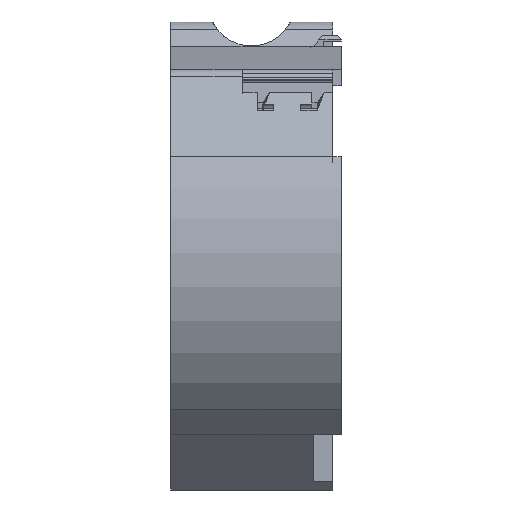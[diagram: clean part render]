
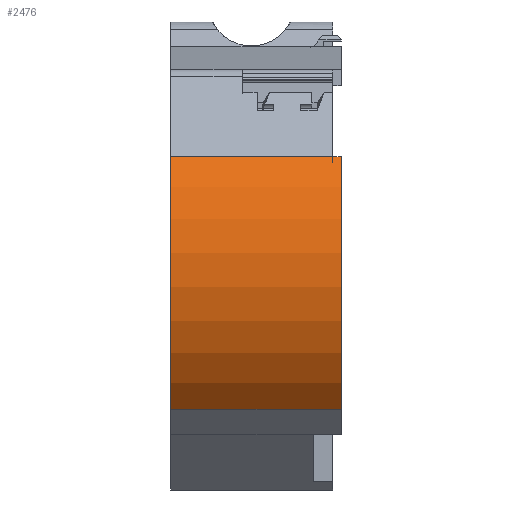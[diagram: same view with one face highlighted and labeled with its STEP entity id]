
A CAD part, left-side view. The second image highlights one B-rep face of the part: STEP entity #2476.
In plain terms, the highlighted cylindrical face has radius 36 mm (diameter 72 mm), a partial arc.
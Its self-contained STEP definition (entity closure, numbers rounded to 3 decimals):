
#733 = VERTEX_POINT('',#734);
#734 = CARTESIAN_POINT('',(-90.456,30.85,-25.456));
#740 = EDGE_CURVE('',#741,#733,#743,.T.);
#741 = VERTEX_POINT('',#742);
#742 = CARTESIAN_POINT('',(-94.801,30.85,20.196));
#743 = CIRCLE('',#744,36.);
#744 = AXIS2_PLACEMENT_3D('',#745,#746,#747);
#745 = CARTESIAN_POINT('',(-65.,30.85,0.));
#746 = DIRECTION('',(0.,-1.,0.));
#747 = DIRECTION('',(1.,0.,0.));
#2431 = EDGE_CURVE('',#2432,#733,#2434,.T.);
#2432 = VERTEX_POINT('',#2433);
#2433 = CARTESIAN_POINT('',(-90.456,0.,-25.456));
#2434 = LINE('',#2435,#2436);
#2435 = CARTESIAN_POINT('',(-90.456,0.,-25.456));
#2436 = VECTOR('',#2437,1.);
#2437 = DIRECTION('',(0.,1.,0.));
#2476 = ADVANCED_FACE('',(#2477),#2504,.T.);
#2477 = FACE_BOUND('',#2478,.T.);
#2478 = EDGE_LOOP('',(#2479,#2488,#2496,#2502,#2503));
#2479 = ORIENTED_EDGE('',*,*,#2480,.F.);
#2480 = EDGE_CURVE('',#2481,#2432,#2483,.T.);
#2481 = VERTEX_POINT('',#2482);
#2482 = CARTESIAN_POINT('',(-94.801,0.,20.196));
#2483 = CIRCLE('',#2484,36.);
#2484 = AXIS2_PLACEMENT_3D('',#2485,#2486,#2487);
#2485 = CARTESIAN_POINT('',(-65.,0.,0.));
#2486 = DIRECTION('',(0.,-1.,0.));
#2487 = DIRECTION('',(1.,0.,0.));
#2488 = ORIENTED_EDGE('',*,*,#2489,.T.);
#2489 = EDGE_CURVE('',#2481,#2490,#2492,.T.);
#2490 = VERTEX_POINT('',#2491);
#2491 = CARTESIAN_POINT('',(-94.801,1.6,20.196));
#2492 = LINE('',#2493,#2494);
#2493 = CARTESIAN_POINT('',(-94.801,0.,20.196));
#2494 = VECTOR('',#2495,1.);
#2495 = DIRECTION('',(0.,1.,0.));
#2496 = ORIENTED_EDGE('',*,*,#2497,.T.);
#2497 = EDGE_CURVE('',#2490,#741,#2498,.T.);
#2498 = LINE('',#2499,#2500);
#2499 = CARTESIAN_POINT('',(-94.801,1.6,20.196));
#2500 = VECTOR('',#2501,1.);
#2501 = DIRECTION('',(0.,1.,0.));
#2502 = ORIENTED_EDGE('',*,*,#740,.T.);
#2503 = ORIENTED_EDGE('',*,*,#2431,.F.);
#2504 = CYLINDRICAL_SURFACE('',#2505,36.);
#2505 = AXIS2_PLACEMENT_3D('',#2506,#2507,#2508);
#2506 = CARTESIAN_POINT('',(-65.,0.,0.));
#2507 = DIRECTION('',(0.,-1.,0.));
#2508 = DIRECTION('',(1.,0.,0.));
